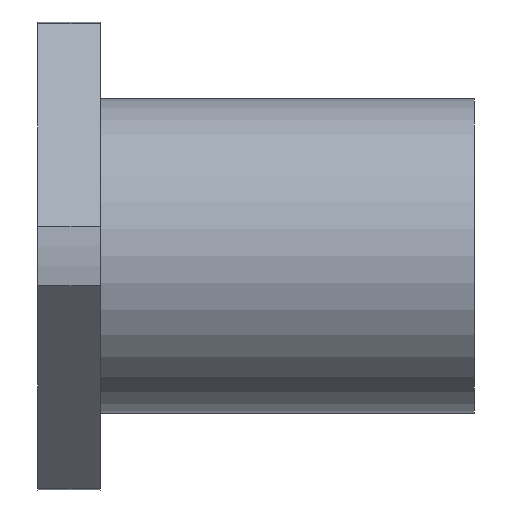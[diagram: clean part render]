
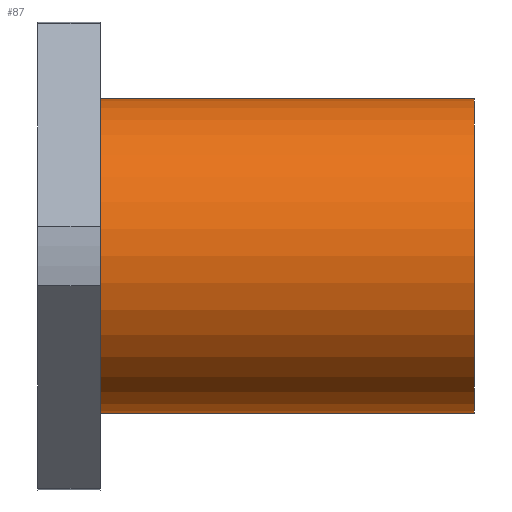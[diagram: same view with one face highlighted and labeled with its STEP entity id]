
A CAD part, front view. The second image highlights one B-rep face of the part: STEP entity #87.
In plain terms, the highlighted cylindrical face has radius 45 mm (diameter 90 mm), a full revolution.
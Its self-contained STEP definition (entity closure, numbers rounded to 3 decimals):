
#87 = ADVANCED_FACE( '', ( #138, #139 ), #140, .T. );
#138 = FACE_OUTER_BOUND( '', #213, .T. );
#139 = FACE_OUTER_BOUND( '', #214, .T. );
#140 = CYLINDRICAL_SURFACE( '', #215, 45. );
#213 = EDGE_LOOP( '', ( #347 ) );
#214 = EDGE_LOOP( '', ( #348 ) );
#215 = AXIS2_PLACEMENT_3D( '', #349, #350, #351 );
#347 = ORIENTED_EDGE( '', *, *, #438, .T. );
#348 = ORIENTED_EDGE( '', *, *, #450, .F. );
#349 = CARTESIAN_POINT( '', ( 125., 0., 0. ) );
#350 = DIRECTION( '', ( -1., 0., 0. ) );
#351 = DIRECTION( '', ( 0., 0., -1. ) );
#438 = EDGE_CURVE( '', #500, #500, #501, .T. );
#450 = EDGE_CURVE( '', #522, #522, #523, .T. );
#500 = VERTEX_POINT( '', #594 );
#501 = CIRCLE( '', #595, 45. );
#522 = VERTEX_POINT( '', #618 );
#523 = CIRCLE( '', #619, 45. );
#594 = CARTESIAN_POINT( '', ( 18., 0., -45. ) );
#595 = AXIS2_PLACEMENT_3D( '', #678, #679, #680 );
#618 = CARTESIAN_POINT( '', ( 125., 0., -45. ) );
#619 = AXIS2_PLACEMENT_3D( '', #710, #711, #712 );
#678 = CARTESIAN_POINT( '', ( 18., 0., 0. ) );
#679 = DIRECTION( '', ( 1., 0., 0. ) );
#680 = DIRECTION( '', ( 0., 0., -1. ) );
#710 = CARTESIAN_POINT( '', ( 125., 0., 0. ) );
#711 = DIRECTION( '', ( 1., 0., 0. ) );
#712 = DIRECTION( '', ( 0., 0., -1. ) );
